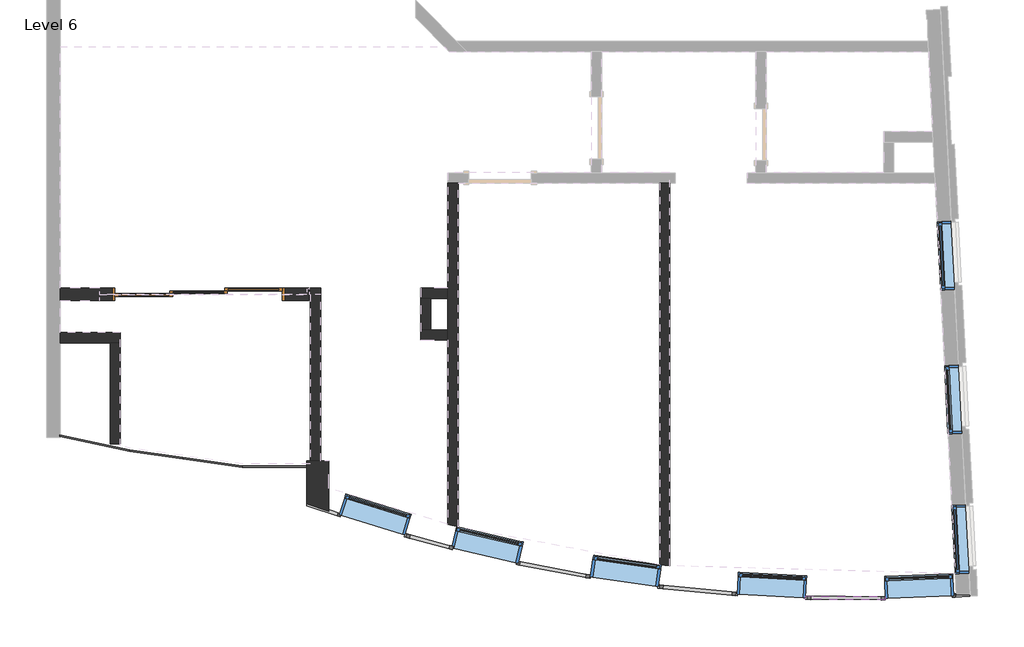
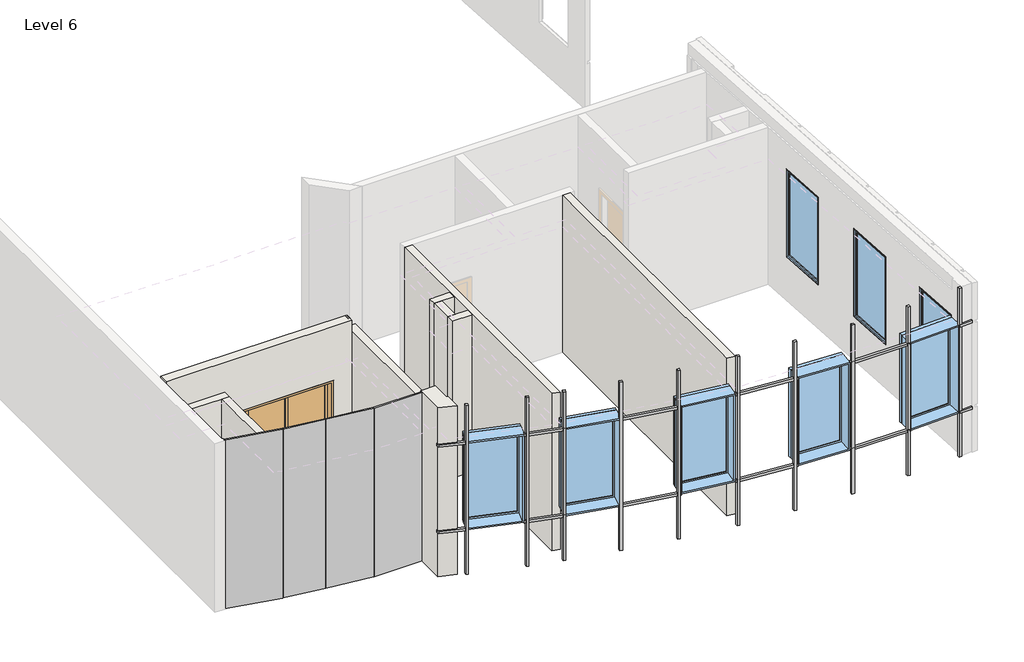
# One storey, part 1 of 5: 12 proxies, 11 walls, 8 windows, 4 plates, 1 door.
"""IFC4 building model written with IfcOpenShell, lengths in millimetres."""

from ifc_helpers import new_model, si_unit, point, frame, frame_2d, origin, place, context, project, spatial, polyline, circle_curve, trimmed, segment, composite_curve, outline, extrude, faceted_brep, transform, mapped, element, save
from ifc_brep_helpers import plane_surface, cylinder_surface, revolved_surface, advanced_brep
from components import sliding_door_3_panel_aus_type_1_135a2ec2, system_panel_glazed_6c35e85d, system_panel_glazed_aacc9fa0, system_panel_glazed_6f96cc8f, system_panel_glazed_6110bdf2, m_fixed_1000_x_1830mm_2_3397196e, m_fixed_1000_x_1830mm_2_ae03b894

model = new_model("IFC4")

# Units and contexts
model_context = context("Model", 3, world=origin())
ifc_project = project(units=[si_unit("LENGTHUNIT", "METRE", prefix="MILLI")], contexts=[model_context])

# Site, building, storey
site = spatial("IfcSite", under=ifc_project)
building = spatial("IfcBuilding", under=site)
storey = spatial("IfcBuildingStorey", under=building, Name="Level 6", Elevation=22000.0)

# Proxies
placement = place(None, origin())
element("IfcBuildingElementProxy", 1, Name="Reveal", ObjectType="Reveal", at=placement, inside=storey, context=model_context, shape_type="SweptSolid", body=[
    extrude(outline(composite_curve([segment(trimmed(circle_curve(frame_2d((11609.3245394, 10843.3737526)), 24025.0), [point((3560.252741, -11793.1690087))], [point((4041.9086857, -11958.7060275))], True, "CARTESIAN"), True, "CONTINUOUS"), segment(polyline([(4041.9086857, -11958.7060275), (4027.1474769, -12006.4887414)]), True, "CONTINUOUS"), segment(trimmed(circle_curve(frame_2d((11609.3245394, 10843.3737526)), 24075.0), [point((4027.1474769, -12006.4887414))], [point((3560.252741, -11846.2288923))], False, "CARTESIAN"), True, "CONTINUOUS"), segment(polyline([(3560.252741, -11846.2288923), (3560.252741, -11793.1690087)]), True, "CONTINUOUS")], self_intersect=False)), frame((0.0, 0.0, 22901.1018524), z_axis=(0.0, 0.0, 1.0), x_axis=(1.0, 0.0, 0.0)), (0.0, 0.0, 1.0), 50.0),
    extrude(outline(composite_curve([segment(trimmed(circle_curve(frame_2d((11609.3245394, 10843.3737526)), 24025.0), [point((13021.5895865, -13140.0816373))], [point((13258.6392504, -13124.9467139))], True, "CARTESIAN"), True, "CONTINUOUS"), segment(polyline([(13258.6392504, -13124.9467139), (13261.1814055, -13174.8900043)]), True, "CONTINUOUS"), segment(trimmed(circle_curve(frame_2d((11609.3245394, 10843.3737526)), 24075.0), [point((13261.1814055, -13174.8900043))], [point((13023.4897345, -13190.0563356))], False, "CARTESIAN"), True, "CONTINUOUS"), segment(polyline([(13023.4897345, -13190.0563356), (13021.5895865, -13140.0816373)]), True, "CONTINUOUS")], self_intersect=False)), frame((0.0, 0.0, 22901.1018524), z_axis=(0.0, 0.0, 1.0), x_axis=(1.0, 0.0, 0.0)), (0.0, 0.0, 1.0), 50.0),
    extrude(outline(composite_curve([segment(trimmed(circle_curve(frame_2d((11609.3245394, 10843.3737526)), 24025.0), [point((10855.1689112, -13169.7866868))], [point((12022.3116475, -13178.0763837))], True, "CARTESIAN"), True, "CONTINUOUS"), segment(polyline([(12022.3116475, -13178.0763837), (12024.2117955, -13228.051082)]), True, "CONTINUOUS"), segment(trimmed(circle_curve(frame_2d((11609.3245394, 10843.3737526)), 24075.0), [point((12024.2117955, -13228.051082))], [point((10852.5590945, -13219.7293528))], False, "CARTESIAN"), True, "CONTINUOUS"), segment(polyline([(10852.5590945, -13219.7293528), (10855.1689112, -13169.7866868)]), True, "CONTINUOUS")], self_intersect=False)), frame((0.0, 0.0, 22901.1018524), z_axis=(0.0, 0.0, 1.0), x_axis=(1.0, 0.0, 0.0)), (0.0, 0.0, 1.0), 50.0),
    extrude(outline(composite_curve([segment(trimmed(circle_curve(frame_2d((11609.3245394, 10843.3737526)), 24025.0), [point((8701.6675401, -13005.0256858))], [point((9856.5314794, -13117.6016343))], True, "CARTESIAN"), True, "CONTINUOUS"), segment(polyline([(9856.5314794, -13117.6016343), (9853.9216627, -13167.5443003)]), True, "CONTINUOUS"), segment(trimmed(circle_curve(frame_2d((11609.3245394, 10843.3737526)), 24075.0), [point((9853.9216627, -13167.5443003))], [point((8694.5830706, -13054.5321634))], False, "CARTESIAN"), True, "CONTINUOUS"), segment(polyline([(8694.5830706, -13054.5321634), (8701.6675401, -13005.0256858)]), True, "CONTINUOUS")], self_intersect=False)), frame((0.0, 0.0, 22901.1018524), z_axis=(0.0, 0.0, 1.0), x_axis=(1.0, 0.0, 0.0)), (0.0, 0.0, 1.0), 50.0),
    extrude(outline(composite_curve([segment(trimmed(circle_curve(frame_2d((11609.3245394, 10843.3737526)), 24025.0), [point((6655.6118444, -12665.3768636))], [point((7711.7519914, -12863.3669182))], True, "CARTESIAN"), True, "CONTINUOUS"), segment(polyline([(7711.7519914, -12863.3669182), (7704.6675219, -12912.8733958)]), True, "CONTINUOUS"), segment(trimmed(circle_curve(frame_2d((11609.3245394, 10843.3737526)), 24075.0), [point((7704.6675219, -12912.8733958))], [point((6644.2839105, -12714.0878372))], False, "CARTESIAN"), True, "CONTINUOUS"), segment(polyline([(6644.2839105, -12714.0878372), (6655.6118444, -12665.3768636)]), True, "CONTINUOUS")], self_intersect=False)), frame((0.0, 0.0, 22901.1018524), z_axis=(0.0, 0.0, 1.0), x_axis=(1.0, 0.0, 0.0)), (0.0, 0.0, 1.0), 50.0),
    extrude(outline(composite_curve([segment(trimmed(circle_curve(frame_2d((11609.3245394, 10843.3737526)), 24025.0), [point((4997.3564116, -12253.8663959))], [point((5681.6029373, -12438.8671535))], True, "CARTESIAN"), True, "CONTINUOUS"), segment(polyline([(5681.6029373, -12438.8671535), (5670.2750034, -12487.578127)]), True, "CONTINUOUS"), segment(trimmed(circle_curve(frame_2d((11609.3245394, 10843.3737526)), 24075.0), [point((5670.2750034, -12487.578127))], [point((4982.5952028, -12301.6491098))], False, "CARTESIAN"), True, "CONTINUOUS"), segment(polyline([(4982.5952028, -12301.6491098), (4997.3564116, -12253.8663959)]), True, "CONTINUOUS")], self_intersect=False)), frame((0.0, 0.0, 22901.1018524), z_axis=(0.0, 0.0, 1.0), x_axis=(1.0, 0.0, 0.0)), (0.0, 0.0, 1.0), 50.0),
])
element("IfcBuildingElementProxy", 2, Name="Reveal", ObjectType="Reveal", at=placement, inside=storey, context=model_context, shape_type="SweptSolid", body=[
    extrude(outline(composite_curve([segment(trimmed(circle_curve(frame_2d((11609.3245394, 10843.3737526)), 24025.0), [point((3560.252741, -11793.1690087))], [point((4041.9086857, -11958.7060275))], True, "CARTESIAN"), True, "CONTINUOUS"), segment(polyline([(4041.9086857, -11958.7060275), (4027.1474769, -12006.4887414)]), True, "CONTINUOUS"), segment(trimmed(circle_curve(frame_2d((11609.3245394, 10843.3737526)), 24075.0), [point((4027.1474769, -12006.4887414))], [point((3560.252741, -11846.2288923))], False, "CARTESIAN"), True, "CONTINUOUS"), segment(polyline([(3560.252741, -11846.2288923), (3560.252741, -11793.1690087)]), True, "CONTINUOUS")], self_intersect=False)), frame((0.0, 0.0, 24695.0), z_axis=(0.0, 0.0, 1.0), x_axis=(1.0, 0.0, 0.0)), (0.0, 0.0, 1.0), 50.0),
    extrude(outline(composite_curve([segment(trimmed(circle_curve(frame_2d((11609.3245394, 10843.3737526)), 24025.0), [point((13021.5895865, -13140.0816373))], [point((13258.6392504, -13124.9467139))], True, "CARTESIAN"), True, "CONTINUOUS"), segment(polyline([(13258.6392504, -13124.9467139), (13261.1814055, -13174.8900043)]), True, "CONTINUOUS"), segment(trimmed(circle_curve(frame_2d((11609.3245394, 10843.3737526)), 24075.0), [point((13261.1814055, -13174.8900043))], [point((13023.4897345, -13190.0563356))], False, "CARTESIAN"), True, "CONTINUOUS"), segment(polyline([(13023.4897345, -13190.0563356), (13021.5895865, -13140.0816373)]), True, "CONTINUOUS")], self_intersect=False)), frame((0.0, 0.0, 24695.0), z_axis=(0.0, 0.0, 1.0), x_axis=(1.0, 0.0, 0.0)), (0.0, 0.0, 1.0), 50.0),
    extrude(outline(composite_curve([segment(trimmed(circle_curve(frame_2d((11609.3245394, 10843.3737526)), 24025.0), [point((10855.1689112, -13169.7866868))], [point((12022.3116475, -13178.0763837))], True, "CARTESIAN"), True, "CONTINUOUS"), segment(polyline([(12022.3116475, -13178.0763837), (12024.2117955, -13228.051082)]), True, "CONTINUOUS"), segment(trimmed(circle_curve(frame_2d((11609.3245394, 10843.3737526)), 24075.0), [point((12024.2117955, -13228.051082))], [point((10852.5590945, -13219.7293528))], False, "CARTESIAN"), True, "CONTINUOUS"), segment(polyline([(10852.5590945, -13219.7293528), (10855.1689112, -13169.7866868)]), True, "CONTINUOUS")], self_intersect=False)), frame((0.0, 0.0, 24695.0), z_axis=(0.0, 0.0, 1.0), x_axis=(1.0, 0.0, 0.0)), (0.0, 0.0, 1.0), 50.0),
    extrude(outline(composite_curve([segment(trimmed(circle_curve(frame_2d((11609.3245394, 10843.3737526)), 24025.0), [point((8701.6675401, -13005.0256858))], [point((9856.5314794, -13117.6016343))], True, "CARTESIAN"), True, "CONTINUOUS"), segment(polyline([(9856.5314794, -13117.6016343), (9853.9216627, -13167.5443003)]), True, "CONTINUOUS"), segment(trimmed(circle_curve(frame_2d((11609.3245394, 10843.3737526)), 24075.0), [point((9853.9216627, -13167.5443003))], [point((8694.5830706, -13054.5321634))], False, "CARTESIAN"), True, "CONTINUOUS"), segment(polyline([(8694.5830706, -13054.5321634), (8701.6675401, -13005.0256858)]), True, "CONTINUOUS")], self_intersect=False)), frame((0.0, 0.0, 24695.0), z_axis=(0.0, 0.0, 1.0), x_axis=(1.0, 0.0, 0.0)), (0.0, 0.0, 1.0), 50.0),
    extrude(outline(composite_curve([segment(trimmed(circle_curve(frame_2d((11609.3245394, 10843.3737526)), 24025.0), [point((6655.6118444, -12665.3768636))], [point((7711.7519914, -12863.3669182))], True, "CARTESIAN"), True, "CONTINUOUS"), segment(polyline([(7711.7519914, -12863.3669182), (7704.6675219, -12912.8733958)]), True, "CONTINUOUS"), segment(trimmed(circle_curve(frame_2d((11609.3245394, 10843.3737526)), 24075.0), [point((7704.6675219, -12912.8733958))], [point((6644.2839105, -12714.0878372))], False, "CARTESIAN"), True, "CONTINUOUS"), segment(polyline([(6644.2839105, -12714.0878372), (6655.6118444, -12665.3768636)]), True, "CONTINUOUS")], self_intersect=False)), frame((0.0, 0.0, 24695.0), z_axis=(0.0, 0.0, 1.0), x_axis=(1.0, 0.0, 0.0)), (0.0, 0.0, 1.0), 50.0),
    extrude(outline(composite_curve([segment(trimmed(circle_curve(frame_2d((11609.3245394, 10843.3737526)), 24025.0), [point((4997.3564116, -12253.8663959))], [point((5681.6029373, -12438.8671535))], True, "CARTESIAN"), True, "CONTINUOUS"), segment(polyline([(5681.6029373, -12438.8671535), (5670.2750034, -12487.578127)]), True, "CONTINUOUS"), segment(trimmed(circle_curve(frame_2d((11609.3245394, 10843.3737526)), 24075.0), [point((5670.2750034, -12487.578127))], [point((4982.5952028, -12301.6491098))], False, "CARTESIAN"), True, "CONTINUOUS"), segment(polyline([(4982.5952028, -12301.6491098), (4997.3564116, -12253.8663959)]), True, "CONTINUOUS")], self_intersect=False)), frame((0.0, 0.0, 24695.0), z_axis=(0.0, 0.0, 1.0), x_axis=(1.0, 0.0, 0.0)), (0.0, 0.0, 1.0), 50.0),
])
element("IfcBuildingElementProxy", 3, Name="Reveal", ObjectType="Reveal", at=placement, inside=storey, context=model_context, shape_type="SweptSolid", body=[
    extrude(outline(polyline([(10930.2286023, -13172.0396044), (10928.7632845, -13222.0181283), (10878.7847607, -13220.5528105), (10880.2500785, -13170.5742866), (10930.2286023, -13172.0396044)])), frame((0.0, 0.0, 22000.0), z_axis=(0.0, 0.0, 1.0), x_axis=(1.0, 0.0, 0.0)), (0.0, 0.0, 1.0), 3500.0),
])
element("IfcBuildingElementProxy", 4, Name="Reveal", ObjectType="Reveal", at=placement, inside=storey, context=model_context, shape_type="SweptSolid", body=[
    extrude(outline(polyline([(9833.8791093, -13115.9468456), (9830.1322307, -13165.8062569), (9780.2728194, -13162.0593784), (9784.0196979, -13112.199967), (9833.8791093, -13115.9468456)])), frame((0.0, 0.0, 22000.0), z_axis=(0.0, 0.0, 1.0), x_axis=(1.0, 0.0, 0.0)), (0.0, 0.0, 1.0), 3500.0),
])
element("IfcBuildingElementProxy", 5, Name="Reveal", ObjectType="Reveal", at=placement, inside=storey, context=model_context, shape_type="SweptSolid", body=[
    extrude(outline(polyline([(8775.1009531, -13013.8772765), (8769.1508054, -13063.5219715), (8719.5061104, -13057.5718239), (8725.456258, -13007.9271288), (8775.1009531, -13013.8772765)])), frame((0.0, 0.0, 22000.0), z_axis=(0.0, 0.0, 1.0), x_axis=(1.0, 0.0, 0.0)), (0.0, 0.0, 1.0), 3500.0),
])
element("IfcBuildingElementProxy", 6, Name="Reveal", ObjectType="Reveal", at=placement, inside=storey, context=model_context, shape_type="SweptSolid", body=[
    extrude(outline(polyline([(5071.1541458, -12274.8782987), (5057.4970808, -12322.9769948), (5009.3983846, -12309.3199298), (5023.0554496, -12261.2212336), (5071.1541458, -12274.8782987)])), frame((0.0, 0.0, 22000.0), z_axis=(0.0, 0.0, 1.0), x_axis=(1.0, 0.0, 0.0)), (0.0, 0.0, 1.0), 3500.0),
])
element("IfcBuildingElementProxy", 7, Name="Reveal", ObjectType="Reveal", at=placement, inside=storey, context=model_context, shape_type="SweptSolid", body=[
    extrude(outline(polyline([(5700.3597547, -12443.6480659), (5688.0118038, -12492.0993621), (5639.5605075, -12479.7514112), (5651.9084585, -12431.3001149), (5700.3597547, -12443.6480659)])), frame((0.0, 0.0, 22000.0), z_axis=(0.0, 0.0, 1.0), x_axis=(1.0, 0.0, 0.0)), (0.0, 0.0, 1.0), 3500.0),
])
element("IfcBuildingElementProxy", 8, Name="Reveal", ObjectType="Reveal", at=placement, inside=storey, context=model_context, shape_type="SweptSolid", body=[
    extrude(outline(polyline([(6679.5658779, -12670.4249524), (6669.2553236, -12719.350329), (6620.329947, -12709.0397746), (6630.6405014, -12660.1143981), (6679.5658779, -12670.4249524)])), frame((0.0, 0.0, 22000.0), z_axis=(0.0, 0.0, 1.0), x_axis=(1.0, 0.0, 0.0)), (0.0, 0.0, 1.0), 3500.0),
])
element("IfcBuildingElementProxy", 9, Name="Reveal", ObjectType="Reveal", at=placement, inside=storey, context=model_context, shape_type="SweptSolid", body=[
    extrude(outline(polyline([(7698.414481, -12861.1834573), (7690.2239038, -12910.5080398), (7640.8993212, -12902.3174626), (7649.0898984, -12852.9928801), (7698.414481, -12861.1834573)])), frame((0.0, 0.0, 22000.0), z_axis=(0.0, 0.0, 1.0), x_axis=(1.0, 0.0, 0.0)), (0.0, 0.0, 1.0), 3500.0),
])
element("IfcBuildingElementProxy", 10, Name="Reveal", ObjectType="Reveal", at=placement, inside=storey, context=model_context, shape_type="SweptSolid", body=[
    extrude(outline(polyline([(12013.3333991, -13178.2420724), (12014.1221857, -13228.2358501), (11964.1284079, -13229.0246368), (11963.3396213, -13179.030859), (12013.3333991, -13178.2420724)])), frame((0.0, 0.0, 22000.0), z_axis=(0.0, 0.0, 1.0), x_axis=(1.0, 0.0, 0.0)), (0.0, 0.0, 1.0), 3500.0),
])
element("IfcBuildingElementProxy", 11, Name="Reveal", ObjectType="Reveal", at=placement, inside=storey, context=model_context, shape_type="SweptSolid", body=[
    extrude(outline(polyline([(13046.0274649, -13138.6431498), (13048.9655422, -13188.5567521), (12999.0519398, -13191.4948294), (12996.1138625, -13141.581227), (13046.0274649, -13138.6431498)])), frame((0.0, 0.0, 22000.0), z_axis=(0.0, 0.0, 1.0), x_axis=(1.0, 0.0, 0.0)), (0.0, 0.0, 1.0), 3500.0),
])
element("IfcBuildingElementProxy", 12, Name="Reveal", ObjectType="Reveal", at=placement, inside=storey, context=model_context, shape_type="SweptSolid", body=[
    extrude(outline(polyline([(4066.129757, -11966.7437937), (4050.3817395, -12014.1990352), (4002.926498, -11998.4510177), (4018.6745155, -11950.9957762), (4066.129757, -11966.7437937)])), frame((0.0, 0.0, 22000.0), z_axis=(0.0, 0.0, 1.0), x_axis=(1.0, 0.0, 0.0)), (0.0, 0.0, 1.0), 3500.0),
])

# Door
sliding_door_3_panel_aus_type_1_shape = sliding_door_3_panel_aus_type_1_135a2ec2(model_context)
element("IfcDoor", 13, ObjectType="Sliding Door - 3 Panel (AUS) : Type 1", at=placement, inside=storey, context=model_context, shape_type="MappedRepresentation", body=[
    mapped(sliding_door_3_panel_aus_type_1_shape, transform((2060.7158708, -8752.2362629, 22000.0), x_axis=(-1.0, 0.0, 0.0), y_axis=(0.0, -1.0, 0.0), z_axis=(0.0, 0.0, 1.0))),
])

# Plates
system_panel_glazed_shape = system_panel_glazed_6c35e85d(model_context)
element("IfcPlate", 14, ObjectType="System Panel : Glazed", at=placement, inside=storey, context=model_context, shape_type="MappedRepresentation", body=[
    mapped(system_panel_glazed_shape, transform((3090.252741, -11236.9456492, 22000.0), x_axis=(-1.0, 0.0, 0.0), y_axis=(0.0, -1.0, 0.0), z_axis=(0.0, 0.0, 1.0))),
])
system_panel_glazed_2_shape = system_panel_glazed_aacc9fa0(model_context)
element("IfcPlate", 15, ObjectType="System Panel : Glazed", at=placement, inside=storey, context=model_context, shape_type="MappedRepresentation", body=[
    mapped(system_panel_glazed_2_shape, transform((2183.3563773, -11175.5438696, 22000.0), x_axis=(-0.9902680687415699, 0.1391731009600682, 0.0), y_axis=(-0.1391731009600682, -0.9902680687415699, 0.0), z_axis=(0.0, 0.0, 1.0))),
])
system_panel_glazed_3_shape = system_panel_glazed_6f96cc8f(model_context)
element("IfcPlate", 16, ObjectType="System Panel : Glazed", at=placement, inside=storey, context=model_context, shape_type="MappedRepresentation", body=[
    mapped(system_panel_glazed_3_shape, transform((1360.2554668, -11059.8645806, 22000.0), x_axis=(-0.9902680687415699, 0.13917310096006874, 0.0), y_axis=(-0.13917310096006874, -0.9902680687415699, 0.0), z_axis=(0.0, 0.0, 1.0))),
])
system_panel_glazed_4_shape = system_panel_glazed_6110bdf2(model_context)
element("IfcPlate", 17, ObjectType="System Panel : Glazed", at=placement, inside=storey, context=model_context, shape_type="MappedRepresentation", body=[
    mapped(system_panel_glazed_4_shape, transform((462.0043948, -10896.7482224, 22000.0), x_axis=(-0.9781476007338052, 0.20791169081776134, 0.0), y_axis=(-0.20791169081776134, -0.9781476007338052, 0.0), z_axis=(0.0, 0.0, 1.0))),
])

# Walls
element("IfcWall", 18, ObjectType="Generic - 20cm-gypsum-kamposite", at=placement, inside=storey, context=model_context, shape_type="AdvancedBrep", body=[
    advanced_brep(
    [(3880.252741, -11930.821055, 22000.0), (3880.252741, -11592.6318887, 22000.0), (3880.252741, -11189.3160932, 22000.0), (3880.252741, -11189.3160932, 25259.0), (3880.252741, -11592.6318887, 25259.0), (3880.252741, -11624.3597587, 25259.0), (3880.252741, -11624.3597587, 25500.0), (3880.252741, -11930.821055, 25500.0), (3880.252741, -11930.821055, 24745.0), (3880.252741, -11904.4189785, 24745.0), (3880.252741, -11904.4189785, 24695.0), (3880.252741, -11930.821055, 24695.0), (3880.252741, -11930.821055, 22951.1018524), (3880.252741, -11904.4189785, 22951.1018524), (3880.252741, -11904.4189785, 22901.1018524), (3880.252741, -11930.821055, 22901.1018524), (3560.252741, -11189.3160932, 22000.0), (3560.252741, -11819.7006899, 22000.0), (3560.252741, -11819.7006899, 22901.1018524), (3560.252741, -11793.1690087, 22901.1018524), (3560.252741, -11793.1690087, 22951.1018524), (3560.252741, -11819.7006899, 22951.1018524), (3560.252741, -11819.7006899, 24695.0), (3560.252741, -11793.1690087, 24695.0), (3560.252741, -11793.1690087, 24745.0), (3560.252741, -11819.7006899, 24745.0), (3560.252741, -11819.7006899, 25500.0), (3560.252741, -11236.9456492, 25500.0), (3560.252741, -11236.9456492, 25259.0), (3560.252741, -11189.3160932, 25259.0), (3610.252741, -11189.3160932, 22000.0), (3760.252741, -11189.3160932, 22000.0), (3610.252741, -11189.3160932, 25259.0), (3760.252741, -11189.3160932, 25259.0), (3850.252741, -11614.0171205, 25500.0), (3850.252741, -11236.9456492, 25500.0), (3850.252741, -11236.9456492, 25259.0), (3850.252741, -11614.0171205, 25259.0)],
    [
        (0, 1),
        (1, 2),
        (2, 3),
        (3, 4),
        (4, 5),
        (5, 6),
        (6, 7),
        (7, 8),
        (8, 9),
        (9, 10),
        (10, 11),
        (11, 12),
        (12, 13),
        (13, 14),
        (14, 15),
        (15, 0),
        (16, 17),
        (17, 18),
        (18, 19),
        (19, 20),
        (20, 21),
        (21, 22),
        (22, 23),
        (23, 24),
        (24, 25),
        (25, 26),
        (26, 27),
        (27, 28),
        (28, 29),
        (29, 16),
        (0, 17, circle_curve(frame((11609.3245394, 10843.3737526, 22000.0), z_axis=(0.0, 0.0, -1.0), x_axis=(-0.33468074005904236, -0.942331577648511, 0.0)), 24050.0)),
        (16, 30),
        (30, 31),
        (31, 2),
        (29, 32),
        (32, 33),
        (33, 3),
        (26, 7, circle_curve(frame((11609.3245394, 10843.3737526, 25500.0), z_axis=(0.0, 0.0, 1.0), x_axis=(-0.33468074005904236, -0.942331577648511, 0.0)), 24050.0)),
        (6, 34, circle_curve(frame((11609.3245394, 10843.3737526, 25500.0), z_axis=(0.0, 0.0, -1.0), x_axis=(1.0, 0.0, 0.0)), 23760.0)),
        (34, 35),
        (35, 27),
        (25, 8, circle_curve(frame((11609.3245394, 10843.3737526, 24745.0), z_axis=(0.0, 0.0, 1.0), x_axis=(-0.33468074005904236, -0.942331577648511, 0.0)), 24050.0)),
        (15, 18, circle_curve(frame((11609.3245394, 10843.3737526, 22901.1018524), z_axis=(0.0, 0.0, -1.0), x_axis=(-0.33468074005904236, -0.942331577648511, 0.0)), 24050.0)),
        (21, 12, circle_curve(frame((11609.3245394, 10843.3737526, 22951.1018524), z_axis=(0.0, 0.0, 1.0), x_axis=(-0.33468074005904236, -0.942331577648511, 0.0)), 24050.0)),
        (11, 22, circle_curve(frame((11609.3245394, 10843.3737526, 24695.0), z_axis=(0.0, 0.0, -1.0), x_axis=(-0.33468074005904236, -0.942331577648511, 0.0)), 24050.0)),
        (20, 13, circle_curve(frame((11609.3245394, 10843.3737526, 22951.1018524), z_axis=(0.0, 0.0, 1.0), x_axis=(-0.3149603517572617, -0.9491048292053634, 0.0)), 24025.0)),
        (14, 19, circle_curve(frame((11609.3245394, 10843.3737526, 22901.1018524), z_axis=(0.0, 0.0, -1.0), x_axis=(-0.3149603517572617, -0.9491048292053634, 0.0)), 24025.0)),
        (24, 9, circle_curve(frame((11609.3245394, 10843.3737526, 24745.0), z_axis=(0.0, 0.0, 1.0), x_axis=(-0.3149603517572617, -0.9491048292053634, 0.0)), 24025.0)),
        (10, 23, circle_curve(frame((11609.3245394, 10843.3737526, 24695.0), z_axis=(0.0, 0.0, -1.0), x_axis=(-0.3149603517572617, -0.9491048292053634, 0.0)), 24025.0)),
        (36, 37),
        (37, 5, circle_curve(frame((11609.3245394, 10843.3737526, 25259.0), z_axis=(0.0, 0.0, 1.0), x_axis=(1.0, 0.0, 0.0)), 23760.0)),
        (28, 36),
        (37, 34),
        (36, 35),
    ],
    [
        plane_surface(frame((3880.252741, -11283.4147586, 22000.0), z_axis=(1.0, 0.0, 0.0), x_axis=(0.0, 1.0, 0.0))),
        plane_surface(frame((3560.252741, -11283.4147586, 22000.0), z_axis=(-1.0, 0.0, 0.0), x_axis=(0.0, -1.0, 0.0))),
        plane_surface(frame((3880.252741, -11706.4521039, 22000.0), z_axis=(0.0, 0.0, -1.0), x_axis=(-1.0, 0.0, 0.0))),
        plane_surface(frame((3880.252741, -11189.3160932, 22000.0), z_axis=(0.0, 1.0, 0.0), x_axis=(-1.0, 0.0, 0.0))),
        plane_surface(frame((3880.252741, -11189.3160932, 25500.0), z_axis=(0.0, 0.0, 1.0), x_axis=(-1.0, 0.0, 0.0))),
        cylinder_surface(frame((11609.3245394, 10843.3737526, 22000.0), z_axis=(0.0, 0.0, 1.0), x_axis=(-0.33468074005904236, -0.942331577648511, 0.0)), 24050.0),
        plane_surface(frame((11609.3245394, 10843.3737526, 22951.1018524), z_axis=(0.0, 0.0, -1.0), x_axis=(-0.3149603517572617, -0.9491048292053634, 0.0))),
        plane_surface(frame((11609.3245394, 10843.3737526, 22901.1018524), z_axis=(0.0, 0.0, 1.0), x_axis=(-0.3149603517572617, -0.9491048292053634, 0.0))),
        cylinder_surface(frame((11609.3245394, 10843.3737526, 22926.1018524), z_axis=(0.0, 0.0, -1.0), x_axis=(-0.3149603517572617, -0.9491048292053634, 0.0)), 24025.0),
        plane_surface(frame((11609.3245394, 10843.3737526, 24745.0), z_axis=(0.0, 0.0, -1.0), x_axis=(-0.3149603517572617, -0.9491048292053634, 0.0))),
        plane_surface(frame((11609.3245394, 10843.3737526, 24695.0), z_axis=(0.0, 0.0, 1.0), x_axis=(-0.3149603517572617, -0.9491048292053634, 0.0))),
        cylinder_surface(frame((11609.3245394, 10843.3737526, 24720.0), z_axis=(0.0, 0.0, -1.0), x_axis=(-0.3149603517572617, -0.9491048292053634, 0.0)), 24025.0),
        plane_surface(frame((-80.0421304, 14944.8648867, 25259.0), z_axis=(0.0, 0.0, 1.0), x_axis=(0.9323005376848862, -0.36168454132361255, 0.0))),
        revolved_surface(polyline([(35369.3245394, 10843.3737526, 25259.0), (35369.3245394, 10843.3737526, 25500.0)]), (11609.3245394, 10843.3737526, 25500.0), (0.0, 0.0, -1.0)),
        plane_surface(frame((3850.252741, -11614.0171205, 25259.0), z_axis=(1.0, 0.0, 0.0), x_axis=(0.0, 0.0, 1.0))),
        plane_surface(frame((3850.252741, -11236.9456492, 25259.0), z_axis=(0.0, 1.0, 0.0), x_axis=(0.0, 0.0, 1.0))),
    ],
    [
        (0, [[1, 2, 3, 4, 5, 6, 7, 8, 9, 10, 11, 12, 13, 14, 15, 16]]),
        (1, [[17, 18, 19, 20, 21, 22, 23, 24, 25, 26, 27, 28, 29, 30]]),
        (2, [[-2, -1, 31, -17, 32, 33, 34]]),
        (3, [[-34, -33, -32, -30, 35, 36, 37, -3]]),
        (4, [[38, -7, 39, 40, 41, -27]]),
        (5, [[-38, -26, 42, -8]]),
        (5, [[-31, -16, 43, -18]]),
        (5, [[44, -12, 45, -22]]),
        (6, [[46, -13, -44, -21]]),
        (7, [[47, -19, -43, -15]]),
        (8, [[-46, -20, -47, -14]]),
        (9, [[48, -9, -42, -25]]),
        (10, [[49, -23, -45, -11]]),
        (11, [[-48, -24, -49, -10]]),
        (12, [[50, 51, -5, -4, -37, -36, -35, -29, 52]]),
        (13, [[53, -39, -6, -51]]),
        (14, [[-50, 54, -40, -53]]),
        (15, [[-54, -52, -28, -41]]),
    ],
),
])
element("IfcWall", 19, ObjectType="Generic - 15cm-gypsu-2boith", at=placement, inside=storey, context=model_context, shape_type="SweptSolid", body=[
    extrude(outline(composite_curve([segment(polyline([(8720.2907737, -12710.1054788), (8720.2907737, -7123.7981953), (8870.2907737, -7123.7981953), (8870.2907737, -12728.0198004)]), True, "CONTINUOUS"), segment(trimmed(circle_curve(frame_2d((11609.3245394, 10843.3737526)), 23730.0), [point((8870.2907737, -12728.0198004))], [point((8720.2907737, -12710.1054788))], False, "CARTESIAN"), True, "CONTINUOUS")], self_intersect=False)), frame((0.0, 0.0, 22000.0), z_axis=(0.0, 0.0, 1.0), x_axis=(1.0, 0.0, 0.0)), (0.0, 0.0, 1.0), 3259.0),
])
element("IfcWall", 20, ObjectType="Generic - 15cm-gypsu-2boith", at=placement, inside=storey, context=model_context, shape_type="AdvancedBrep", body=[
    advanced_brep(
    [(5620.2907737, -7123.7981953, 22000.0), (5620.2907737, -8662.29082, 22000.0), (5620.2907737, -8812.29082, 22000.0), (5620.2907737, -9272.4272222, 22000.0), (5620.2907737, -9422.4272222, 22000.0), (5620.2907737, -12118.4287584, 22000.0), (5620.2907737, -12118.4287584, 25259.0), (5620.2907737, -7123.7981953, 25259.0), (5770.2907737, -12157.0302587, 22000.0), (5770.2907737, -7123.7981953, 22000.0), (5770.2907737, -7123.7981953, 25259.0), (5770.2907737, -12157.0302587, 25259.0)],
    [
        (0, 1),
        (1, 2),
        (2, 3),
        (3, 4),
        (4, 5),
        (5, 6),
        (6, 7),
        (7, 0),
        (8, 9),
        (9, 10),
        (10, 11),
        (11, 8),
        (0, 9),
        (8, 5, circle_curve(frame((11609.3245394, 10843.3737526, 22000.0), z_axis=(0.0, 0.0, -1.0), x_axis=(-0.33468074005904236, -0.942331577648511, 0.0)), 23730.0)),
        (11, 6, circle_curve(frame((11609.3245394, 10843.3737526, 25259.0), z_axis=(0.0, 0.0, -1.0), x_axis=(-0.33468074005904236, -0.942331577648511, 0.0)), 23730.0)),
        (7, 10),
    ],
    [
        plane_surface(frame((5620.2907737, -7123.7981953, 22000.0), z_axis=(-1.0, 0.0, 0.0), x_axis=(0.0, -1.0, 0.0))),
        plane_surface(frame((5770.2907737, -7123.7981953, 22000.0), z_axis=(1.0, 0.0, 0.0), x_axis=(0.0, 1.0, 0.0))),
        plane_surface(frame((5620.2907737, -7048.7981953, 22000.0), z_axis=(0.0, 0.0, -1.0), x_axis=(1.0, 0.0, 0.0))),
        cylinder_surface(frame((11609.3245394, 10843.3737526, 22000.0), z_axis=(0.0, 0.0, -1.0), x_axis=(-0.33468074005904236, -0.942331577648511, 0.0)), 23730.0),
        plane_surface(frame((8730.3395953, -7123.7981953, 22000.0), z_axis=(0.0, 1.0, 0.0), x_axis=(1.0, 0.0, 0.0))),
        plane_surface(frame((-80.0421304, 14944.8648867, 25259.0), z_axis=(0.0, 0.0, 1.0), x_axis=(0.9323005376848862, -0.36168454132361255, 0.0))),
    ],
    [
        (0, [[1, 2, 3, 4, 5, 6, 7, 8]]),
        (1, [[9, 10, 11, 12]]),
        (2, [[-5, -4, -3, -2, -1, 13, -9, 14]]),
        (3, [[-14, -12, 15, -6]]),
        (4, [[-13, -8, 16, -10]]),
        (5, [[-7, -15, -11, -16]]),
    ],
),
])
element("IfcWall", 21, ObjectType="Generic - 15cm-gypsu-2boith", at=placement, inside=storey, context=model_context, shape_type="Brep", body=[
    faceted_brep([(5620.2907737, -9272.4272222, 22000.0), (5373.5699518, -9272.4272222, 22000.0), (5223.5699518, -9272.4272222, 22000.0), (5223.5699518, -9272.4272222, 25259.0), (5373.5699518, -9272.4272222, 25259.0), (5620.2907737, -9272.4272222, 25259.0), (5223.5699518, -9422.4272222, 22000.0), (5620.2907737, -9422.4272222, 22000.0), (5620.2907737, -9422.4272222, 25259.0), (5223.5699518, -9422.4272222, 25259.0)], [[[0, 1, 2, 3, 4, 5]], [[6, 7, 8, 9]], [[2, 1, 0, 7, 6]], [[7, 0, 5, 8]], [[2, 6, 9, 3]], [[5, 4, 3, 9, 8]]]),
])
element("IfcWall", 22, ObjectType="Generic - 15cm-gypsu-2boith", at=placement, inside=storey, context=model_context, shape_type="SweptSolid", body=[
    extrude(outline(polyline([(5373.5699518, -8812.29082), (5373.5699518, -9272.4272222), (5223.5699518, -9272.4272222), (5223.5699518, -8812.29082), (5373.5699518, -8812.29082)])), frame((0.0, 0.0, 22000.0), z_axis=(0.0, 0.0, 1.0), x_axis=(1.0, 0.0, 0.0)), (0.0, 0.0, 1.0), 3259.0),
])
element("IfcWall", 23, ObjectType="Generic - 15cm-gypsu-2boith", at=placement, inside=storey, context=model_context, shape_type="Brep", body=[
    faceted_brep([(5223.5699518, -8812.29082, 22000.0), (5373.5699518, -8812.29082, 22000.0), (5620.2907737, -8812.29082, 22000.0), (5620.2907737, -8812.29082, 25259.0), (5373.5699518, -8812.29082, 25259.0), (5223.5699518, -8812.29082, 25259.0), (5620.2907737, -8662.29082, 22000.0), (5223.5699518, -8662.29082, 22000.0), (5223.5699518, -8662.29082, 25259.0), (5620.2907737, -8662.29082, 25259.0)], [[[0, 1, 2, 3, 4, 5]], [[6, 7, 8, 9]], [[2, 1, 0, 7, 6]], [[7, 0, 5, 8]], [[2, 6, 9, 3]], [[5, 4, 3, 9, 8]]]),
])
element("IfcWall", 24, ObjectType="Generic - 10cm-gypsu-2boith", at=placement, inside=storey, context=model_context, shape_type="SweptSolid", body=[
    extrude(outline(polyline([(3557.6788606, -8673.6141586), (3600.5670169, -8673.6141586), (3600.5670169, -8773.6141586), (3557.6788606, -8773.6141586), (3557.6788606, -8673.6141586)])), frame((0.0, 0.0, 22000.0), z_axis=(0.0, 0.0, 1.0), x_axis=(1.0, 0.0, 0.0)), (0.0, 0.0, 1.0), 3500.0),
])
element("IfcWall", 25, ObjectType="Generic - 15cm-gypsu-2boith", at=placement, inside=storey, context=model_context, shape_type="Brep", body=[
    faceted_brep([(829.9393362, -9312.1185157, 22000.0), (-50.0421304, -9312.1185157, 22000.0), (-50.0421304, -9312.1185157, 25259.0), (829.9393362, -9312.1185157, 25259.0), (-50.0421304, -9462.1185157, 22000.0), (679.9393362, -9462.1185157, 22000.0), (829.9393362, -9462.1185157, 22000.0), (829.9393362, -9462.1185157, 25259.0), (679.9393362, -9462.1185157, 25259.0), (-50.0421304, -9462.1185157, 25259.0)], [[[0, 1, 2, 3]], [[4, 5, 6, 7, 8, 9]], [[1, 0, 6, 5, 4]], [[1, 4, 9, 2]], [[6, 0, 3, 7]], [[3, 2, 9, 8, 7]]]),
])
element("IfcWall", 26, ObjectType="Generic - 15cm-gypsu-2boith", at=placement, inside=storey, context=model_context, shape_type="SweptSolid", body=[
    extrude(outline(polyline([(679.9393362, -10941.9462756), (679.9393362, -9462.1185157), (829.9393362, -9462.1185157), (829.9393362, -10941.9462756), (679.9393362, -10941.9462756)])), frame((0.0, 0.0, 22000.0), z_axis=(0.0, 0.0, 1.0), x_axis=(1.0, 0.0, 0.0)), (0.0, 0.0, 1.0), 3259.0),
])
element("IfcWall", 27, ObjectType="Generic - 18cm-gypsu-2boith 2", at=placement, inside=storey, context=model_context, shape_type="SweptSolid", body=[
    extrude(outline(polyline([(25500.0, 3589.9578696), (25500.0, -50.0421304), (22000.0, -50.0421304), (22000.0, 709.9578696), (24383.0, 709.9578696), (24383.0, 3239.9578696), (22000.0, 3239.9578696), (22000.0, 3589.9578696), (25500.0, 3589.9578696)])), frame((0.0, -8842.2362629, 0.0), z_axis=(0.0, 1.0, 0.0), x_axis=(0.0, 0.0, 1.0)), (0.0, 0.0, 1.0), 180.0),
])
element("IfcWall", 28, ObjectType="Generic - 15cm-granit 2", at=placement, inside=storey, context=model_context, shape_type="SweptSolid", body=[
    extrude(outline(polyline([(3610.252741, -11189.3160932), (3610.252741, -8662.29082), (3760.252741, -8662.29082), (3760.252741, -11189.3160932), (3610.252741, -11189.3160932)])), frame((0.0, 0.0, 22000.0), z_axis=(0.0, 0.0, 1.0), x_axis=(1.0, 0.0, 0.0)), (0.0, 0.0, 1.0), 3259.0),
])

# Windows
m_fixed_1000_x_1830mm_2_shape = m_fixed_1000_x_1830mm_2_3397196e(model_context)
element("IfcWindow", 29, ObjectType="M_Fixed : 1000 x 1830mm 2", at=placement, inside=storey, context=model_context, shape_type="MappedRepresentation", body=[
    mapped(m_fixed_1000_x_1830mm_2_shape, transform((13131.5568795, -12339.6994395, 22595.0), x_axis=(-0.05083502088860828, 0.9987070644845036, 0.0), y_axis=(-0.9987070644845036, -0.05083502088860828, 0.0), z_axis=(0.0, 0.0, 1.0))),
])
element("IfcWindow", 30, ObjectType="M_Fixed : 1000 x 1830mm 2", at=placement, inside=storey, context=model_context, shape_type="MappedRepresentation", body=[
    mapped(m_fixed_1000_x_1830mm_2_shape, transform((13027.3450867, -10292.3499573, 22595.0), x_axis=(-0.05083502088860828, 0.9987070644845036, 0.0), y_axis=(-0.9987070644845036, -0.05083502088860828, 0.0), z_axis=(0.0, 0.0, 1.0))),
])
element("IfcWindow", 31, ObjectType="M_Fixed : 1000 x 1830mm 2", at=placement, inside=storey, context=model_context, shape_type="MappedRepresentation", body=[
    mapped(m_fixed_1000_x_1830mm_2_shape, transform((12920.0831926, -8185.0780513, 22595.0), x_axis=(-0.05083502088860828, 0.9987070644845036, 0.0), y_axis=(-0.9987070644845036, -0.05083502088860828, 0.0), z_axis=(0.0, 0.0, 1.0))),
])
m_fixed_1000_x_1830mm_2_2_shape = m_fixed_1000_x_1830mm_2_ae03b894(model_context)
element("IfcWindow", 32, ObjectType="M_Fixed : 1000 x 1830mm 2", at=placement, inside=storey, context=model_context, shape_type="MappedRepresentation", body=[
    mapped(m_fixed_1000_x_1830mm_2_2_shape, transform((12517.3154635, -13037.1725082, 22595.0), x_axis=(0.9992779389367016, 0.037994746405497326, 0.0), y_axis=(-0.037994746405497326, 0.9992779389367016, 0.0), z_axis=(0.0, 0.0, 1.0))),
])
element("IfcWindow", 33, ObjectType="M_Fixed : 1000 x 1830mm 2", at=placement, inside=storey, context=model_context, shape_type="MappedRepresentation", body=[
    mapped(m_fixed_1000_x_1830mm_2_2_shape, transform((10362.2164894, -13021.8657967, 22595.0), x_axis=(0.998637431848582, -0.05218505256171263, 0.0), y_axis=(0.05218505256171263, 0.998637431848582, 0.0), z_axis=(0.0, 0.0, 1.0))),
])
element("IfcWindow", 34, ObjectType="M_Fixed : 1000 x 1830mm 2", at=placement, inside=storey, context=model_context, shape_type="MappedRepresentation", body=[
    mapped(m_fixed_1000_x_1830mm_2_2_shape, transform((8223.991369, -12813.4319607, 22595.0), x_axis=(0.989915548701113, -0.14165876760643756, 0.0), y_axis=(0.14165876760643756, 0.989915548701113, 0.0), z_axis=(0.0, 0.0, 1.0))),
])
element("IfcWindow", 35, ObjectType="M_Fixed : 1000 x 1830mm 2", at=placement, inside=storey, context=model_context, shape_type="MappedRepresentation", body=[
    mapped(m_fixed_1000_x_1830mm_2_2_shape, transform((6196.24035, -12433.2981915, 22595.0), x_axis=(0.9740089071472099, -0.22650971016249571, 0.0), y_axis=(0.22650971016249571, 0.9740089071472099, 0.0), z_axis=(0.0, 0.0, 1.0))),
])
element("IfcWindow", 36, ObjectType="M_Fixed : 1000 x 1830mm 2", at=placement, inside=storey, context=model_context, shape_type="MappedRepresentation", body=[
    mapped(m_fixed_1000_x_1830mm_2_2_shape, transform((4555.6405167, -11989.7267583, 22595.0), x_axis=(0.9554477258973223, -0.2951603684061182, 0.0), y_axis=(0.2951603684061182, 0.9554477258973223, 0.0), z_axis=(0.0, 0.0, 1.0))),
])

save(model, "model.ifc")
